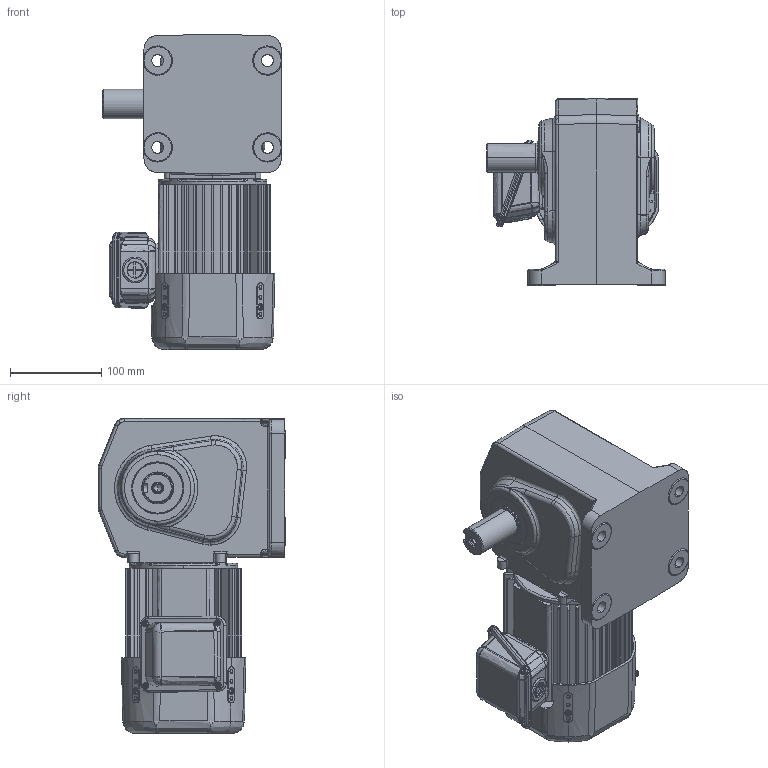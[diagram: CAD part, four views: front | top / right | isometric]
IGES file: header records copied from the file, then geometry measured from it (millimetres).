
Start section: SolidWorks IGES file using analytic representation for surfaces
Global section: file name: \\100.100.100.8\1_共有作業フォルダ\1-5_３Ｄデータ\solidworks\personal-folder\H.Nagayama\HL外形\HL(3D)\sldprt(合体)\TMHL-04-(80~240)A.IGS; native system: SolidWorks 2018; preprocessor: SolidWorks 2018; author: sigma-giken; date: 200324.142025; units: millimetre
Bounding box: 195 x 205 x 344.5 mm (x, y, z)
Surface area: 553511.9 mm2 (no closed solid volume)
Topology: 0 solids, 0 shells, 1882 faces, 24349 edges, 24270 vertices
Faces by surface type: bspline 961, revolution 921
